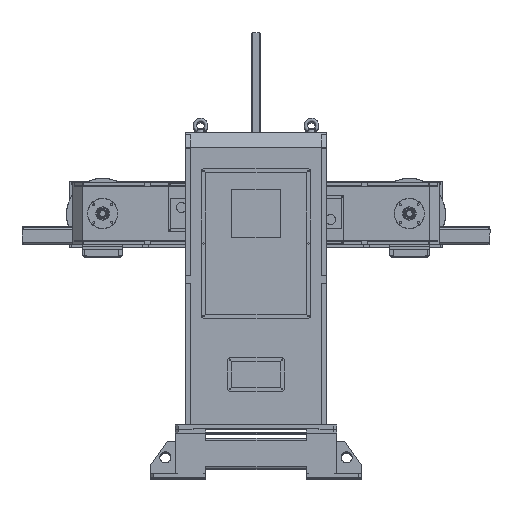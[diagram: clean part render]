
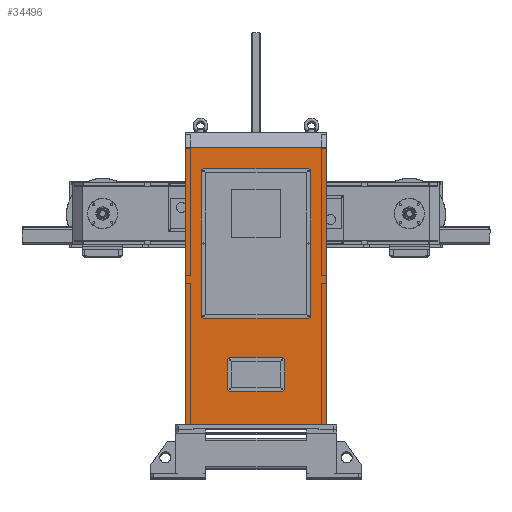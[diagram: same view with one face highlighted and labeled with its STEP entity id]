
A CAD part, top view. The second image highlights one B-rep face of the part: STEP entity #34496.
In plain terms, the highlighted planar face has unit normal (0, 0, 1).
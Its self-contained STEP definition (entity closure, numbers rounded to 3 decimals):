
#36 = CARTESIAN_POINT ( 'NONE',  ( 131.988, 1350.493, 6477.5 ) ) ;
#2531 = EDGE_CURVE ( 'NONE', #48252, #49158, #29706, .T. ) ;
#2655 = VERTEX_POINT ( 'NONE', #57197 ) ;
#2743 = EDGE_CURVE ( 'NONE', #3119, #48252, #52998, .T. ) ;
#2763 = VECTOR ( 'NONE', #16493, 1000. ) ;
#2896 = EDGE_CURVE ( 'NONE', #50367, #3119, #43950, .T. ) ;
#3119 = VERTEX_POINT ( 'NONE', #60137 ) ;
#3285 = FACE_BOUND ( 'NONE', #27071, .T. ) ;
#3493 = CARTESIAN_POINT ( 'NONE',  ( 106.988, 1425.493, 6477.5 ) ) ;
#4009 = DIRECTION ( 'NONE',  ( 0., -1., 0. ) ) ;
#4201 = CARTESIAN_POINT ( 'NONE',  ( -338.012, 162.993, 6477.5 ) ) ;
#4691 = CARTESIAN_POINT ( 'NONE',  ( -98.012, 287.993, 6477.5 ) ) ;
#4876 = DIRECTION ( 'NONE',  ( 0., -1., 0. ) ) ;
#5674 = VECTOR ( 'NONE', #28197, 1000. ) ;
#6193 = VERTEX_POINT ( 'NONE', #31245 ) ;
#8323 = DIRECTION ( 'NONE',  ( 0., 0., -1. ) ) ;
#8409 = ORIENTED_EDGE ( 'NONE', *, *, #50909, .F. ) ;
#8686 = DIRECTION ( 'NONE',  ( 0., 1., 0. ) ) ;
#9339 = LINE ( 'NONE', #16599, #46232 ) ;
#10742 = VERTEX_POINT ( 'NONE', #45312 ) ;
#11644 = CARTESIAN_POINT ( 'NONE',  ( -543.012, 1350.493, 6477.5 ) ) ;
#12727 = CARTESIAN_POINT ( 'NONE',  ( 31.988, 1225.493, 6477.5 ) ) ;
#13425 = CARTESIAN_POINT ( 'NONE',  ( -568.012, -24.507, 6477.5 ) ) ;
#14056 = DIRECTION ( 'NONE',  ( 0., -1., 0. ) ) ;
#14571 = FACE_OUTER_BOUND ( 'NONE', #36684, .T. ) ;
#16493 = DIRECTION ( 'NONE',  ( -1., 0., 0. ) ) ;
#16599 = CARTESIAN_POINT ( 'NONE',  ( -338.012, 287.993, 6477.5 ) ) ;
#17826 = CARTESIAN_POINT ( 'NONE',  ( 131.988, -24.507, 6477.5 ) ) ;
#17858 = CARTESIAN_POINT ( 'NONE',  ( -468.012, 1225.493, 6477.5 ) ) ;
#18310 = CARTESIAN_POINT ( 'NONE',  ( -338.012, 287.993, 6477.5 ) ) ;
#18409 = CARTESIAN_POINT ( 'NONE',  ( -568.012, 1350.493, 6477.5 ) ) ;
#18598 = ORIENTED_EDGE ( 'NONE', *, *, #27415, .T. ) ;
#19025 = EDGE_CURVE ( 'NONE', #2655, #10742, #37970, .T. ) ;
#19863 = VECTOR ( 'NONE', #39285, 1000. ) ;
#21095 = ORIENTED_EDGE ( 'NONE', *, *, #59139, .T. ) ;
#21610 = VERTEX_POINT ( 'NONE', #13425 ) ;
#22010 = LINE ( 'NONE', #38095, #58930 ) ;
#22668 = ORIENTED_EDGE ( 'NONE', *, *, #19025, .F. ) ;
#23722 = DIRECTION ( 'NONE',  ( 0., 1., 0. ) ) ;
#24867 = EDGE_CURVE ( 'NONE', #21610, #29405, #45744, .T. ) ;
#24925 = DIRECTION ( 'NONE',  ( 1., 0., 0. ) ) ;
#24969 = CARTESIAN_POINT ( 'NONE',  ( -468.012, 525.493, 6477.5 ) ) ;
#25154 = VECTOR ( 'NONE', #4009, 1000. ) ;
#25954 = ORIENTED_EDGE ( 'NONE', *, *, #2531, .F. ) ;
#27071 = EDGE_LOOP ( 'NONE', ( #36192, #8409, #62189, #22668 ) ) ;
#27415 = EDGE_CURVE ( 'NONE', #52461, #21610, #33292, .T. ) ;
#28197 = DIRECTION ( 'NONE',  ( 1., 0., 0. ) ) ;
#28376 = VECTOR ( 'NONE', #4876, 1000. ) ;
#28398 = LINE ( 'NONE', #11644, #2763 ) ;
#29405 = VERTEX_POINT ( 'NONE', #17826 ) ;
#29571 = CARTESIAN_POINT ( 'NONE',  ( -568.012, 1350.493, 6477.5 ) ) ;
#29706 = LINE ( 'NONE', #17858, #39497 ) ;
#30334 = LINE ( 'NONE', #51818, #31827 ) ;
#31245 = CARTESIAN_POINT ( 'NONE',  ( -98.012, 162.993, 6477.5 ) ) ;
#31827 = VECTOR ( 'NONE', #8686, 1000. ) ;
#32336 = PLANE ( 'NONE',  #46227 ) ;
#33292 = LINE ( 'NONE', #29571, #58916 ) ;
#34496 = ADVANCED_FACE ( 'NONE', ( #51467, #3285, #14571 ), #32336, .F. ) ;
#35276 = EDGE_CURVE ( 'NONE', #49158, #50367, #22010, .T. ) ;
#35935 = EDGE_LOOP ( 'NONE', ( #25954, #55997, #36606, #49172 ) ) ;
#36192 = ORIENTED_EDGE ( 'NONE', *, *, #41889, .F. ) ;
#36606 = ORIENTED_EDGE ( 'NONE', *, *, #2896, .F. ) ;
#36684 = EDGE_LOOP ( 'NONE', ( #37473, #55329, #21095, #18598 ) ) ;
#37473 = ORIENTED_EDGE ( 'NONE', *, *, #24867, .T. ) ;
#37970 = LINE ( 'NONE', #18310, #25154 ) ;
#38095 = CARTESIAN_POINT ( 'NONE',  ( -468.012, 1225.493, 6477.5 ) ) ;
#39285 = DIRECTION ( 'NONE',  ( 1., 0., 0. ) ) ;
#39497 = VECTOR ( 'NONE', #56375, 1000. ) ;
#41710 = VECTOR ( 'NONE', #23722, 1000. ) ;
#41889 = EDGE_CURVE ( 'NONE', #48457, #2655, #9339, .T. ) ;
#42005 = DIRECTION ( 'NONE',  ( 0., -1., 0. ) ) ;
#43644 = EDGE_CURVE ( 'NONE', #57637, #29405, #53981, .T. ) ;
#43950 = LINE ( 'NONE', #24969, #19863 ) ;
#44093 = DIRECTION ( 'NONE',  ( 0., -1., 0. ) ) ;
#44486 = CARTESIAN_POINT ( 'NONE',  ( 131.988, 1350.493, 6477.5 ) ) ;
#45312 = CARTESIAN_POINT ( 'NONE',  ( -338.012, 162.993, 6477.5 ) ) ;
#45744 = LINE ( 'NONE', #48903, #57020 ) ;
#46227 = AXIS2_PLACEMENT_3D ( 'NONE', #3493, #8323, #42005 ) ;
#46232 = VECTOR ( 'NONE', #60016, 1000. ) ;
#47691 = CARTESIAN_POINT ( 'NONE',  ( 31.988, 1225.493, 6477.5 ) ) ;
#48252 = VERTEX_POINT ( 'NONE', #12727 ) ;
#48457 = VERTEX_POINT ( 'NONE', #4691 ) ;
#48903 = CARTESIAN_POINT ( 'NONE',  ( 106.988, -24.507, 6477.5 ) ) ;
#49158 = VERTEX_POINT ( 'NONE', #50473 ) ;
#49172 = ORIENTED_EDGE ( 'NONE', *, *, #35276, .F. ) ;
#50367 = VERTEX_POINT ( 'NONE', #62446 ) ;
#50473 = CARTESIAN_POINT ( 'NONE',  ( -468.012, 1225.493, 6477.5 ) ) ;
#50909 = EDGE_CURVE ( 'NONE', #6193, #48457, #30334, .T. ) ;
#51467 = FACE_BOUND ( 'NONE', #35935, .T. ) ;
#51818 = CARTESIAN_POINT ( 'NONE',  ( -98.012, 287.993, 6477.5 ) ) ;
#52461 = VERTEX_POINT ( 'NONE', #18409 ) ;
#52998 = LINE ( 'NONE', #47691, #41710 ) ;
#53981 = LINE ( 'NONE', #36, #28376 ) ;
#55329 = ORIENTED_EDGE ( 'NONE', *, *, #43644, .F. ) ;
#55997 = ORIENTED_EDGE ( 'NONE', *, *, #2743, .F. ) ;
#56375 = DIRECTION ( 'NONE',  ( -1., 0., 0. ) ) ;
#56866 = LINE ( 'NONE', #4201, #5674 ) ;
#57020 = VECTOR ( 'NONE', #24925, 1000. ) ;
#57197 = CARTESIAN_POINT ( 'NONE',  ( -338.012, 287.993, 6477.5 ) ) ;
#57637 = VERTEX_POINT ( 'NONE', #44486 ) ;
#58916 = VECTOR ( 'NONE', #44093, 1000. ) ;
#58930 = VECTOR ( 'NONE', #14056, 1000. ) ;
#59139 = EDGE_CURVE ( 'NONE', #57637, #52461, #28398, .T. ) ;
#59985 = EDGE_CURVE ( 'NONE', #10742, #6193, #56866, .T. ) ;
#60016 = DIRECTION ( 'NONE',  ( -1., 0., 0. ) ) ;
#60137 = CARTESIAN_POINT ( 'NONE',  ( 31.988, 525.493, 6477.5 ) ) ;
#62189 = ORIENTED_EDGE ( 'NONE', *, *, #59985, .F. ) ;
#62446 = CARTESIAN_POINT ( 'NONE',  ( -468.012, 525.493, 6477.5 ) ) ;
